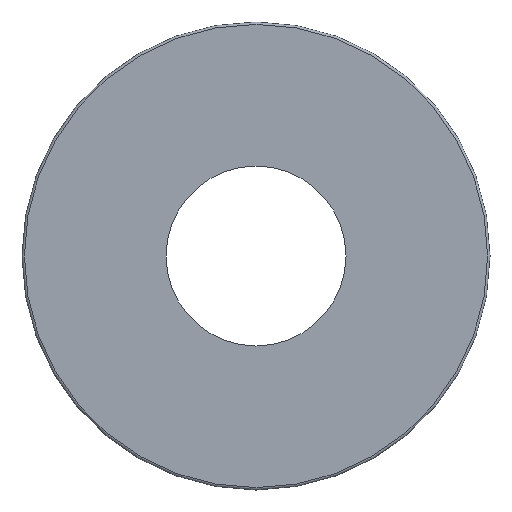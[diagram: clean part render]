
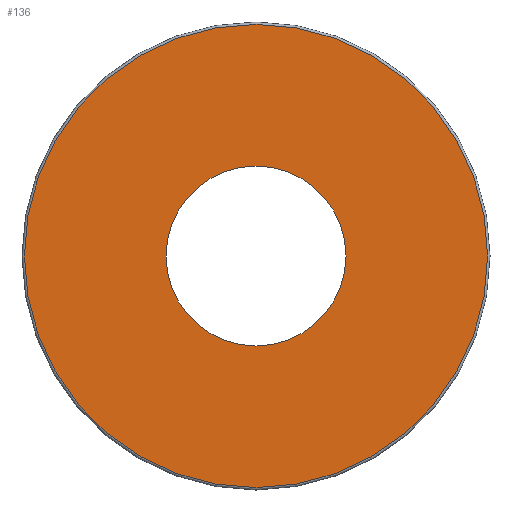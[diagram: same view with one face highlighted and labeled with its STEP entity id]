
A CAD part, front view. The second image highlights one B-rep face of the part: STEP entity #136.
In plain terms, the highlighted planar face has unit normal (0, -1, 0).
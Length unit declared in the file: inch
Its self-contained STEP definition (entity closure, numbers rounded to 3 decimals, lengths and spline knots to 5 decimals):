
#15=FACE_BOUND('',#46,.T.);
#18=PLANE('',#173);
#36=FACE_OUTER_BOUND('',#45,.T.);
#45=EDGE_LOOP('',(#121));
#46=EDGE_LOOP('',(#122));
#55=CIRCLE('',#159,0.4825);
#64=CIRCLE('',#171,0.1875);
#68=VERTEX_POINT('',#237);
#75=VERTEX_POINT('',#257);
#80=EDGE_CURVE('',#68,#68,#55,.T.);
#91=EDGE_CURVE('',#75,#75,#64,.T.);
#121=ORIENTED_EDGE('',*,*,#80,.T.);
#122=ORIENTED_EDGE('',*,*,#91,.F.);
#136=ADVANCED_FACE('',(#36,#15),#18,.T.);
#159=AXIS2_PLACEMENT_3D('',#238,#190,#191);
#171=AXIS2_PLACEMENT_3D('',#259,#216,#217);
#173=AXIS2_PLACEMENT_3D('',#262,#221,#222);
#190=DIRECTION('center_axis',(0.,-1.,0.));
#191=DIRECTION('ref_axis',(0.,0.,-1.));
#216=DIRECTION('center_axis',(0.,-1.,0.));
#217=DIRECTION('ref_axis',(0.,0.,-1.));
#221=DIRECTION('center_axis',(0.,-1.,0.));
#222=DIRECTION('ref_axis',(0.,0.,-1.));
#237=CARTESIAN_POINT('',(0.,0.,0.4825));
#238=CARTESIAN_POINT('Origin',(0.,0.,0.));
#257=CARTESIAN_POINT('',(0.,0.,0.1875));
#259=CARTESIAN_POINT('Origin',(0.,0.,0.));
#262=CARTESIAN_POINT('Origin',(0.1875,0.,0.));
